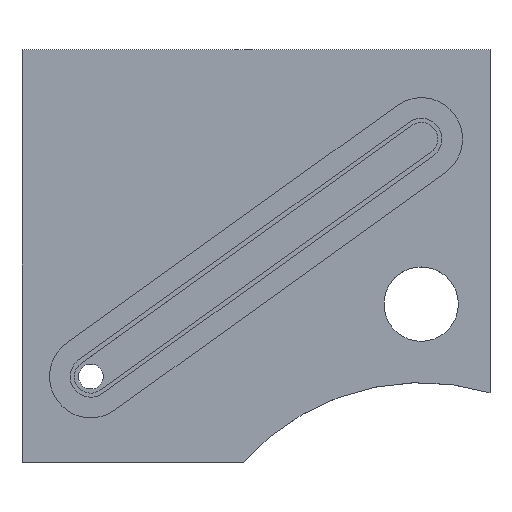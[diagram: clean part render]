
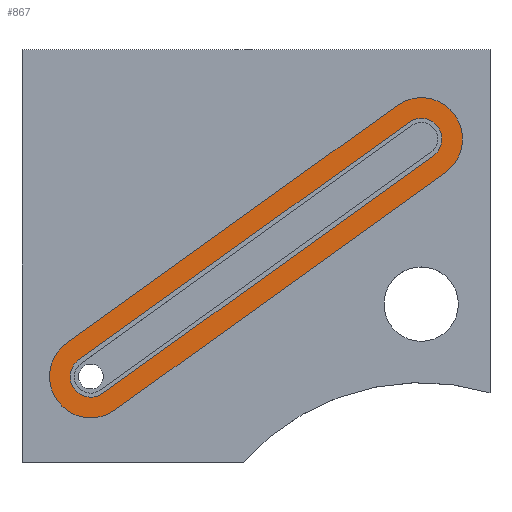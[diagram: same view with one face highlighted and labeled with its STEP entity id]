
A CAD part, top view. The second image highlights one B-rep face of the part: STEP entity #867.
In plain terms, the highlighted planar face has unit normal (0, 0, 1).
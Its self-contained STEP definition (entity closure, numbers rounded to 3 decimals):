
#188 = CYLINDRICAL_SURFACE('',#189,3.);
#189 = AXIS2_PLACEMENT_3D('',#190,#191,#192);
#190 = CARTESIAN_POINT('',(-24.,-25.262,12.42));
#191 = DIRECTION('',(0.,-0.,-1.));
#192 = DIRECTION('',(0.584,-0.812,0.));
#216 = PLANE('',#217);
#217 = AXIS2_PLACEMENT_3D('',#218,#219,#220);
#218 = CARTESIAN_POINT('',(-25.752,-22.827,12.42));
#219 = DIRECTION('',(-0.584,0.812,0.));
#220 = DIRECTION('',(0.812,0.584,0.));
#249 = CYLINDRICAL_SURFACE('',#250,3.);
#250 = AXIS2_PLACEMENT_3D('',#251,#252,#253);
#251 = CARTESIAN_POINT('',(0.,-8.,12.42));
#252 = DIRECTION('',(0.,0.,-1.));
#253 = DIRECTION('',(-0.584,0.812,0.));
#275 = PLANE('',#276);
#276 = AXIS2_PLACEMENT_3D('',#277,#278,#279);
#277 = CARTESIAN_POINT('',(1.752,-10.435,12.42));
#278 = DIRECTION('',(0.584,-0.812,0.));
#279 = DIRECTION('',(-0.812,-0.584,0.));
#569 = VERTEX_POINT('',#570);
#570 = CARTESIAN_POINT('',(-22.248,-27.697,12.42));
#593 = VERTEX_POINT('',#594);
#594 = CARTESIAN_POINT('',(-25.752,-22.827,12.42));
#615 = EDGE_CURVE('',#569,#593,#616,.T.);
#616 = SURFACE_CURVE('',#617,(#622,#629),.PCURVE_S1.);
#617 = CIRCLE('',#618,3.);
#618 = AXIS2_PLACEMENT_3D('',#619,#620,#621);
#619 = CARTESIAN_POINT('',(-24.,-25.262,12.42));
#620 = DIRECTION('',(0.,-0.,-1.));
#621 = DIRECTION('',(0.584,-0.812,0.));
#622 = PCURVE('',#188,#623);
#623 = DEFINITIONAL_REPRESENTATION('',(#624),#628);
#624 = LINE('',#625,#626);
#625 = CARTESIAN_POINT('',(0.,0.));
#626 = VECTOR('',#627,1.);
#627 = DIRECTION('',(1.,0.));
#628 = ( GEOMETRIC_REPRESENTATION_CONTEXT(2) 
PARAMETRIC_REPRESENTATION_CONTEXT() REPRESENTATION_CONTEXT('2D SPACE',''
  ) );
#629 = PCURVE('',#630,#635);
#630 = PLANE('',#631);
#631 = AXIS2_PLACEMENT_3D('',#632,#633,#634);
#632 = CARTESIAN_POINT('',(-12.,-16.631,12.42));
#633 = DIRECTION('',(-0.,-0.,-1.));
#634 = DIRECTION('',(-1.,0.,0.));
#635 = DEFINITIONAL_REPRESENTATION('',(#636),#640);
#636 = CIRCLE('',#637,3.);
#637 = AXIS2_PLACEMENT_2D('',#638,#639);
#638 = CARTESIAN_POINT('',(12.,-8.631));
#639 = DIRECTION('',(-0.584,-0.812));
#640 = ( GEOMETRIC_REPRESENTATION_CONTEXT(2) 
PARAMETRIC_REPRESENTATION_CONTEXT() REPRESENTATION_CONTEXT('2D SPACE',''
  ) );
#646 = VERTEX_POINT('',#647);
#647 = CARTESIAN_POINT('',(1.752,-10.435,12.42));
#670 = EDGE_CURVE('',#646,#569,#671,.T.);
#671 = SURFACE_CURVE('',#672,(#676,#683),.PCURVE_S1.);
#672 = LINE('',#673,#674);
#673 = CARTESIAN_POINT('',(1.752,-10.435,12.42));
#674 = VECTOR('',#675,1.);
#675 = DIRECTION('',(-0.812,-0.584,0.));
#676 = PCURVE('',#275,#677);
#677 = DEFINITIONAL_REPRESENTATION('',(#678),#682);
#678 = LINE('',#679,#680);
#679 = CARTESIAN_POINT('',(0.,0.));
#680 = VECTOR('',#681,1.);
#681 = DIRECTION('',(1.,0.));
#682 = ( GEOMETRIC_REPRESENTATION_CONTEXT(2) 
PARAMETRIC_REPRESENTATION_CONTEXT() REPRESENTATION_CONTEXT('2D SPACE',''
  ) );
#683 = PCURVE('',#630,#684);
#684 = DEFINITIONAL_REPRESENTATION('',(#685),#689);
#685 = LINE('',#686,#687);
#686 = CARTESIAN_POINT('',(-13.752,6.196));
#687 = VECTOR('',#688,1.);
#688 = DIRECTION('',(0.812,-0.584));
#689 = ( GEOMETRIC_REPRESENTATION_CONTEXT(2) 
PARAMETRIC_REPRESENTATION_CONTEXT() REPRESENTATION_CONTEXT('2D SPACE',''
  ) );
#697 = VERTEX_POINT('',#698);
#698 = CARTESIAN_POINT('',(-1.752,-5.565,12.42));
#719 = EDGE_CURVE('',#593,#697,#720,.T.);
#720 = SURFACE_CURVE('',#721,(#725,#732),.PCURVE_S1.);
#721 = LINE('',#722,#723);
#722 = CARTESIAN_POINT('',(-25.752,-22.827,12.42));
#723 = VECTOR('',#724,1.);
#724 = DIRECTION('',(0.812,0.584,0.));
#725 = PCURVE('',#216,#726);
#726 = DEFINITIONAL_REPRESENTATION('',(#727),#731);
#727 = LINE('',#728,#729);
#728 = CARTESIAN_POINT('',(0.,0.));
#729 = VECTOR('',#730,1.);
#730 = DIRECTION('',(1.,0.));
#731 = ( GEOMETRIC_REPRESENTATION_CONTEXT(2) 
PARAMETRIC_REPRESENTATION_CONTEXT() REPRESENTATION_CONTEXT('2D SPACE',''
  ) );
#732 = PCURVE('',#630,#733);
#733 = DEFINITIONAL_REPRESENTATION('',(#734),#738);
#734 = LINE('',#735,#736);
#735 = CARTESIAN_POINT('',(13.752,-6.196));
#736 = VECTOR('',#737,1.);
#737 = DIRECTION('',(-0.812,0.584));
#738 = ( GEOMETRIC_REPRESENTATION_CONTEXT(2) 
PARAMETRIC_REPRESENTATION_CONTEXT() REPRESENTATION_CONTEXT('2D SPACE',''
  ) );
#746 = EDGE_CURVE('',#697,#646,#747,.T.);
#747 = SURFACE_CURVE('',#748,(#753,#760),.PCURVE_S1.);
#748 = CIRCLE('',#749,3.);
#749 = AXIS2_PLACEMENT_3D('',#750,#751,#752);
#750 = CARTESIAN_POINT('',(0.,-8.,12.42));
#751 = DIRECTION('',(0.,0.,-1.));
#752 = DIRECTION('',(-0.584,0.812,0.));
#753 = PCURVE('',#249,#754);
#754 = DEFINITIONAL_REPRESENTATION('',(#755),#759);
#755 = LINE('',#756,#757);
#756 = CARTESIAN_POINT('',(0.,0.));
#757 = VECTOR('',#758,1.);
#758 = DIRECTION('',(1.,0.));
#759 = ( GEOMETRIC_REPRESENTATION_CONTEXT(2) 
PARAMETRIC_REPRESENTATION_CONTEXT() REPRESENTATION_CONTEXT('2D SPACE',''
  ) );
#760 = PCURVE('',#630,#761);
#761 = DEFINITIONAL_REPRESENTATION('',(#762),#766);
#762 = CIRCLE('',#763,3.);
#763 = AXIS2_PLACEMENT_2D('',#764,#765);
#764 = CARTESIAN_POINT('',(-12.,8.631));
#765 = DIRECTION('',(0.584,0.812));
#766 = ( GEOMETRIC_REPRESENTATION_CONTEXT(2) 
PARAMETRIC_REPRESENTATION_CONTEXT() REPRESENTATION_CONTEXT('2D SPACE',''
  ) );
#867 = ADVANCED_FACE('',(#868,#874),#630,.F.);
#868 = FACE_BOUND('',#869,.F.);
#869 = EDGE_LOOP('',(#870,#871,#872,#873));
#870 = ORIENTED_EDGE('',*,*,#719,.T.);
#871 = ORIENTED_EDGE('',*,*,#746,.T.);
#872 = ORIENTED_EDGE('',*,*,#670,.T.);
#873 = ORIENTED_EDGE('',*,*,#615,.T.);
#874 = FACE_BOUND('',#875,.F.);
#875 = EDGE_LOOP('',(#876,#906,#935,#963));
#876 = ORIENTED_EDGE('',*,*,#877,.F.);
#877 = EDGE_CURVE('',#878,#880,#882,.T.);
#878 = VERTEX_POINT('',#879);
#879 = CARTESIAN_POINT('',(-24.876,-24.044,12.42));
#880 = VERTEX_POINT('',#881);
#881 = CARTESIAN_POINT('',(-0.876,-6.782,12.42));
#882 = SURFACE_CURVE('',#883,(#887,#894),.PCURVE_S1.);
#883 = LINE('',#884,#885);
#884 = CARTESIAN_POINT('',(-18.876,-19.729,12.42));
#885 = VECTOR('',#886,1.);
#886 = DIRECTION('',(0.812,0.584,-0.));
#887 = PCURVE('',#630,#888);
#888 = DEFINITIONAL_REPRESENTATION('',(#889),#893);
#889 = LINE('',#890,#891);
#890 = CARTESIAN_POINT('',(6.876,-3.098));
#891 = VECTOR('',#892,1.);
#892 = DIRECTION('',(-0.812,0.584));
#893 = ( GEOMETRIC_REPRESENTATION_CONTEXT(2) 
PARAMETRIC_REPRESENTATION_CONTEXT() REPRESENTATION_CONTEXT('2D SPACE',''
  ) );
#894 = PCURVE('',#895,#900);
#895 = PLANE('',#896);
#896 = AXIS2_PLACEMENT_3D('',#897,#898,#899);
#897 = CARTESIAN_POINT('',(-24.876,-24.044,12.4));
#898 = DIRECTION('',(-0.584,0.812,0.));
#899 = DIRECTION('',(0.812,0.584,0.));
#900 = DEFINITIONAL_REPRESENTATION('',(#901),#905);
#901 = LINE('',#902,#903);
#902 = CARTESIAN_POINT('',(7.391,-0.02));
#903 = VECTOR('',#904,1.);
#904 = DIRECTION('',(1.,0.));
#905 = ( GEOMETRIC_REPRESENTATION_CONTEXT(2) 
PARAMETRIC_REPRESENTATION_CONTEXT() REPRESENTATION_CONTEXT('2D SPACE',''
  ) );
#906 = ORIENTED_EDGE('',*,*,#907,.F.);
#907 = EDGE_CURVE('',#908,#878,#910,.T.);
#908 = VERTEX_POINT('',#909);
#909 = CARTESIAN_POINT('',(-23.124,-26.48,12.42));
#910 = SURFACE_CURVE('',#911,(#916,#923),.PCURVE_S1.);
#911 = CIRCLE('',#912,1.5);
#912 = AXIS2_PLACEMENT_3D('',#913,#914,#915);
#913 = CARTESIAN_POINT('',(-24.,-25.262,12.42));
#914 = DIRECTION('',(0.,-0.,-1.));
#915 = DIRECTION('',(0.584,-0.812,0.));
#916 = PCURVE('',#630,#917);
#917 = DEFINITIONAL_REPRESENTATION('',(#918),#922);
#918 = CIRCLE('',#919,1.5);
#919 = AXIS2_PLACEMENT_2D('',#920,#921);
#920 = CARTESIAN_POINT('',(12.,-8.631));
#921 = DIRECTION('',(-0.584,-0.812));
#922 = ( GEOMETRIC_REPRESENTATION_CONTEXT(2) 
PARAMETRIC_REPRESENTATION_CONTEXT() REPRESENTATION_CONTEXT('2D SPACE',''
  ) );
#923 = PCURVE('',#924,#929);
#924 = CYLINDRICAL_SURFACE('',#925,1.5);
#925 = AXIS2_PLACEMENT_3D('',#926,#927,#928);
#926 = CARTESIAN_POINT('',(-24.,-25.262,12.4));
#927 = DIRECTION('',(0.,-0.,-1.));
#928 = DIRECTION('',(0.584,-0.812,0.));
#929 = DEFINITIONAL_REPRESENTATION('',(#930),#934);
#930 = LINE('',#931,#932);
#931 = CARTESIAN_POINT('',(0.,-0.02));
#932 = VECTOR('',#933,1.);
#933 = DIRECTION('',(1.,0.));
#934 = ( GEOMETRIC_REPRESENTATION_CONTEXT(2) 
PARAMETRIC_REPRESENTATION_CONTEXT() REPRESENTATION_CONTEXT('2D SPACE',''
  ) );
#935 = ORIENTED_EDGE('',*,*,#936,.F.);
#936 = EDGE_CURVE('',#937,#908,#939,.T.);
#937 = VERTEX_POINT('',#938);
#938 = CARTESIAN_POINT('',(0.876,-9.218,12.42));
#939 = SURFACE_CURVE('',#940,(#944,#951),.PCURVE_S1.);
#940 = LINE('',#941,#942);
#941 = CARTESIAN_POINT('',(-5.124,-13.533,12.42));
#942 = VECTOR('',#943,1.);
#943 = DIRECTION('',(-0.812,-0.584,0.));
#944 = PCURVE('',#630,#945);
#945 = DEFINITIONAL_REPRESENTATION('',(#946),#950);
#946 = LINE('',#947,#948);
#947 = CARTESIAN_POINT('',(-6.876,3.098));
#948 = VECTOR('',#949,1.);
#949 = DIRECTION('',(0.812,-0.584));
#950 = ( GEOMETRIC_REPRESENTATION_CONTEXT(2) 
PARAMETRIC_REPRESENTATION_CONTEXT() REPRESENTATION_CONTEXT('2D SPACE',''
  ) );
#951 = PCURVE('',#952,#957);
#952 = PLANE('',#953);
#953 = AXIS2_PLACEMENT_3D('',#954,#955,#956);
#954 = CARTESIAN_POINT('',(0.876,-9.218,12.4));
#955 = DIRECTION('',(0.584,-0.812,0.));
#956 = DIRECTION('',(-0.812,-0.584,0.));
#957 = DEFINITIONAL_REPRESENTATION('',(#958),#962);
#958 = LINE('',#959,#960);
#959 = CARTESIAN_POINT('',(7.391,-0.02));
#960 = VECTOR('',#961,1.);
#961 = DIRECTION('',(1.,0.));
#962 = ( GEOMETRIC_REPRESENTATION_CONTEXT(2) 
PARAMETRIC_REPRESENTATION_CONTEXT() REPRESENTATION_CONTEXT('2D SPACE',''
  ) );
#963 = ORIENTED_EDGE('',*,*,#964,.F.);
#964 = EDGE_CURVE('',#880,#937,#965,.T.);
#965 = SURFACE_CURVE('',#966,(#971,#978),.PCURVE_S1.);
#966 = CIRCLE('',#967,1.5);
#967 = AXIS2_PLACEMENT_3D('',#968,#969,#970);
#968 = CARTESIAN_POINT('',(0.,-8.,12.42));
#969 = DIRECTION('',(0.,0.,-1.));
#970 = DIRECTION('',(-0.584,0.812,0.));
#971 = PCURVE('',#630,#972);
#972 = DEFINITIONAL_REPRESENTATION('',(#973),#977);
#973 = CIRCLE('',#974,1.5);
#974 = AXIS2_PLACEMENT_2D('',#975,#976);
#975 = CARTESIAN_POINT('',(-12.,8.631));
#976 = DIRECTION('',(0.584,0.812));
#977 = ( GEOMETRIC_REPRESENTATION_CONTEXT(2) 
PARAMETRIC_REPRESENTATION_CONTEXT() REPRESENTATION_CONTEXT('2D SPACE',''
  ) );
#978 = PCURVE('',#979,#984);
#979 = CYLINDRICAL_SURFACE('',#980,1.5);
#980 = AXIS2_PLACEMENT_3D('',#981,#982,#983);
#981 = CARTESIAN_POINT('',(0.,-8.,12.4));
#982 = DIRECTION('',(0.,0.,-1.));
#983 = DIRECTION('',(-0.584,0.812,0.));
#984 = DEFINITIONAL_REPRESENTATION('',(#985),#989);
#985 = LINE('',#986,#987);
#986 = CARTESIAN_POINT('',(0.,-0.02));
#987 = VECTOR('',#988,1.);
#988 = DIRECTION('',(1.,0.));
#989 = ( GEOMETRIC_REPRESENTATION_CONTEXT(2) 
PARAMETRIC_REPRESENTATION_CONTEXT() REPRESENTATION_CONTEXT('2D SPACE',''
  ) );
